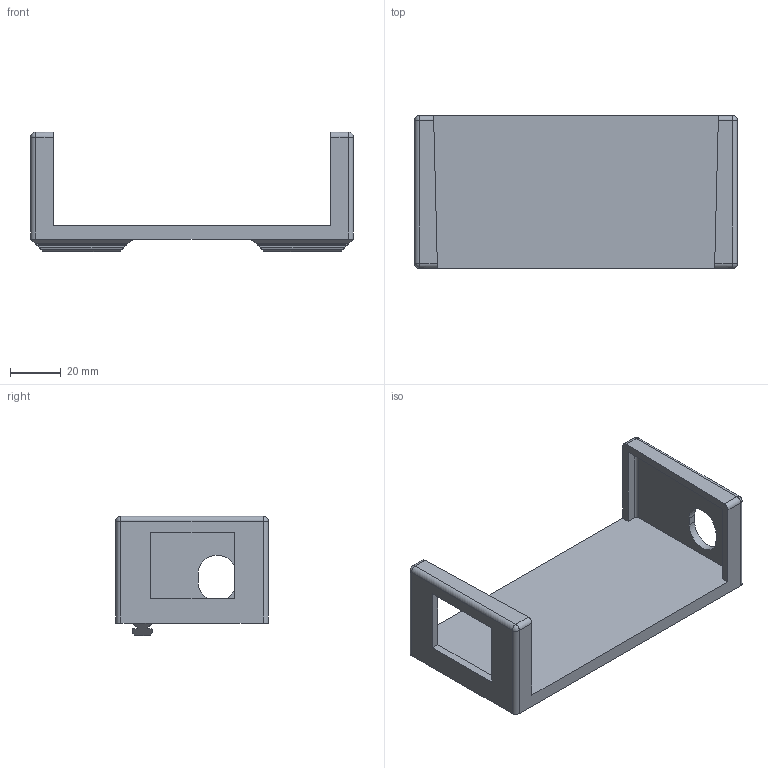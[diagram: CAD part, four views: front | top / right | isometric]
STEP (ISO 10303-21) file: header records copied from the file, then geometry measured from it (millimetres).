
FILE_DESCRIPTION((''),'2;1');
FILE_NAME('ATOMSTACK_S10_PSU_HOLDER','2022-05-13T14:43:14',('Daryll'),(''),'CREO PARAMETRIC BY PTC INC, 2020342','CREO PARAMETRIC BY PTC INC, 2020342','');
FILE_SCHEMA(('CONFIG_CONTROL_DESIGN'));
Length unit declared in the file: millimetre
Products named in the file (1): ATOMSTACK_S10_PSU_HOLDER
Bounding box: 127 x 60 x 47 mm (x, y, z)
Volume: 57156.3 mm3; surface area: 28046.2 mm2
Topology: 1 solids, 1 shells, 94 faces, 248 edges, 156 vertices
Faces by surface type: plane 50, cylinder 36, sphere 8
Entity records: 2954 total; most frequent: CARTESIAN_POINT 634, ORIENTED_EDGE 496, DIRECTION 436, EDGE_CURVE 248, VECTOR 176, LINE 176, VERTEX_POINT 156, AXIS2_PLACEMENT_3D 130
